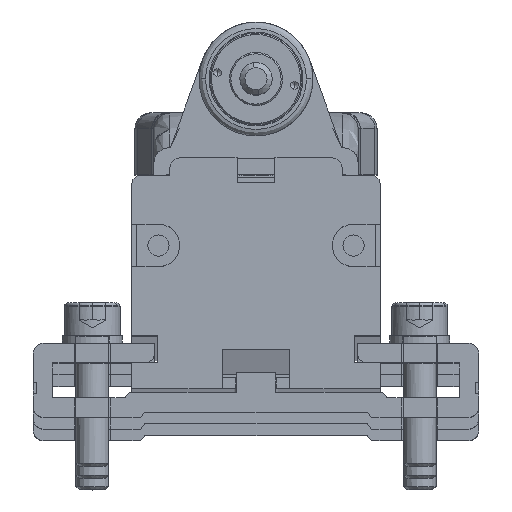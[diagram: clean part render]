
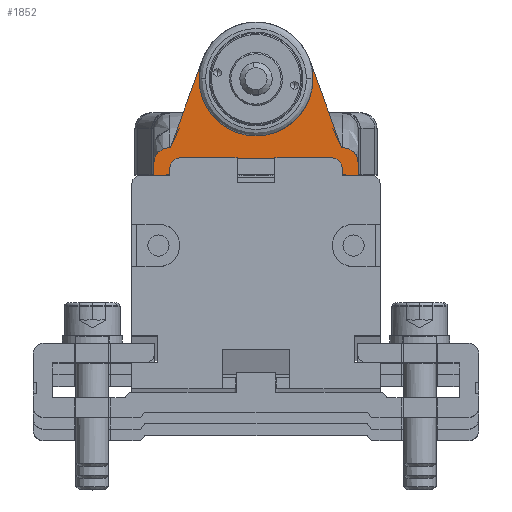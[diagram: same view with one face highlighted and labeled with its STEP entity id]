
A CAD part, top view. The second image highlights one B-rep face of the part: STEP entity #1852.
In plain terms, the highlighted planar face has unit normal (0, 0, 1).
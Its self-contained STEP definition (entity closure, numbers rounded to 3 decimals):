
#1852=ADVANCED_FACE('',(#3964),#3965,.T.);
#3964=FACE_OUTER_BOUND('',#6299,.T.);
#3965=PLANE('',#6300);
#6299=EDGE_LOOP('',(#13789,#13790,#13791,#13792,#13793,#13794,#13795,#13796,#13797,#13798,#13799,#13800,#13801,#13802,#13803,#13804,#13805,#13806,#13807,#13808,#13809,#13810));
#6300=AXIS2_PLACEMENT_3D('',#13811,#13812,#13813);
#13789=ORIENTED_EDGE('',*,*,#18012,.T.);
#13790=ORIENTED_EDGE('',*,*,#18013,.T.);
#13791=ORIENTED_EDGE('',*,*,#18014,.T.);
#13792=ORIENTED_EDGE('',*,*,#18015,.T.);
#13793=ORIENTED_EDGE('',*,*,#18016,.T.);
#13794=ORIENTED_EDGE('',*,*,#18017,.T.);
#13795=ORIENTED_EDGE('',*,*,#18018,.T.);
#13796=ORIENTED_EDGE('',*,*,#18019,.F.);
#13797=ORIENTED_EDGE('',*,*,#18020,.T.);
#13798=ORIENTED_EDGE('',*,*,#18021,.T.);
#13799=ORIENTED_EDGE('',*,*,#18022,.F.);
#13800=ORIENTED_EDGE('',*,*,#18023,.F.);
#13801=ORIENTED_EDGE('',*,*,#15944,.F.);
#13802=ORIENTED_EDGE('',*,*,#18024,.F.);
#13803=ORIENTED_EDGE('',*,*,#15957,.F.);
#13804=ORIENTED_EDGE('',*,*,#18025,.F.);
#13805=ORIENTED_EDGE('',*,*,#18026,.F.);
#13806=ORIENTED_EDGE('',*,*,#18027,.T.);
#13807=ORIENTED_EDGE('',*,*,#18028,.T.);
#13808=ORIENTED_EDGE('',*,*,#18029,.F.);
#13809=ORIENTED_EDGE('',*,*,#18030,.T.);
#13810=ORIENTED_EDGE('',*,*,#18031,.T.);
#13811=CARTESIAN_POINT('',(8.5,32.7,217.0));
#13812=DIRECTION('',(0.0,0.0,1.0));
#13813=DIRECTION('',(1.0,-0.0,0.0));
#15944=EDGE_CURVE('',#18877,#18880,#18881,.T.);
#15957=EDGE_CURVE('',#18904,#18906,#18907,.T.);
#18012=EDGE_CURVE('',#21977,#21978,#21979,.T.);
#18013=EDGE_CURVE('',#21978,#21980,#21981,.T.);
#18014=EDGE_CURVE('',#21980,#21982,#21983,.T.);
#18015=EDGE_CURVE('',#21982,#21984,#21985,.T.);
#18016=EDGE_CURVE('',#21984,#21986,#21987,.T.);
#18017=EDGE_CURVE('',#21986,#21988,#21989,.T.);
#18018=EDGE_CURVE('',#21988,#21990,#21991,.T.);
#18019=EDGE_CURVE('',#21992,#21990,#21993,.T.);
#18020=EDGE_CURVE('',#21992,#21994,#21995,.T.);
#18021=EDGE_CURVE('',#21994,#21996,#21997,.T.);
#18022=EDGE_CURVE('',#21998,#21996,#21999,.T.);
#18023=EDGE_CURVE('',#18880,#21998,#22000,.T.);
#18024=EDGE_CURVE('',#18906,#18877,#22001,.T.);
#18025=EDGE_CURVE('',#22002,#18904,#22003,.T.);
#18026=EDGE_CURVE('',#22004,#22002,#22005,.T.);
#18027=EDGE_CURVE('',#22004,#22006,#22007,.T.);
#18028=EDGE_CURVE('',#22006,#22008,#22009,.T.);
#18029=EDGE_CURVE('',#22010,#22008,#22011,.T.);
#18030=EDGE_CURVE('',#22010,#22012,#22013,.T.);
#18031=EDGE_CURVE('',#22012,#21977,#22014,.T.);
#18877=VERTEX_POINT('',#23146);
#18880=VERTEX_POINT('',#23150);
#18881=CIRCLE('',#23151,8.7);
#18904=VERTEX_POINT('',#23201);
#18906=VERTEX_POINT('',#23203);
#18907=CIRCLE('',#23204,8.7);
#21977=VERTEX_POINT('',#27636);
#21978=VERTEX_POINT('',#27637);
#21979=LINE('',#27638,#27639);
#21980=VERTEX_POINT('',#27640);
#21981=CIRCLE('',#27641,1.5);
#21982=VERTEX_POINT('',#27642);
#21983=LINE('',#27643,#27644);
#21984=VERTEX_POINT('',#27645);
#21985=CIRCLE('',#27646,1.5);
#21986=VERTEX_POINT('',#27647);
#21987=LINE('',#27648,#27649);
#21988=VERTEX_POINT('',#27650);
#21989=LINE('',#27651,#27652);
#21990=VERTEX_POINT('',#27653);
#21991=LINE('',#27654,#27655);
#21992=VERTEX_POINT('',#27656);
#21993=LINE('',#27657,#27658);
#21994=VERTEX_POINT('',#27659);
#21995=LINE('',#27660,#27661);
#21996=VERTEX_POINT('',#27662);
#21997=B_SPLINE_CURVE_WITH_KNOTS('',3,(#27663,#27664,#27665,#27666,#27667,#27668,#27669,#27670,#27671,#27672),.UNSPECIFIED.,.F.,.F.,(4,2,2,2,4),(1.12,1.22,1.315,1.406,1.492),.UNSPECIFIED.);
#21998=VERTEX_POINT('',#27673);
#21999=LINE('',#27674,#27675);
#22000=LINE('',#27676,#27677);
#22001=CIRCLE('',#27678,8.7);
#22002=VERTEX_POINT('',#27679);
#22003=LINE('',#27680,#27681);
#22004=VERTEX_POINT('',#27682);
#22005=LINE('',#27683,#27684);
#22006=VERTEX_POINT('',#27685);
#22007=B_SPLINE_CURVE_WITH_KNOTS('',3,(#27686,#27687,#27688,#27689,#27690,#27691,#27692,#27693,#27694,#27695),.UNSPECIFIED.,.F.,.F.,(4,2,2,2,4),(0.0,0.086,0.177,0.272,0.372),.UNSPECIFIED.);
#22008=VERTEX_POINT('',#27696);
#22009=LINE('',#27697,#27698);
#22010=VERTEX_POINT('',#27699);
#22011=LINE('',#27700,#27701);
#22012=VERTEX_POINT('',#27702);
#22013=LINE('',#27703,#27704);
#22014=LINE('',#27705,#27706);
#23146=CARTESIAN_POINT('',(27.7,47.3,217.0));
#23150=CARTESIAN_POINT('',(27.177,50.272,217.0));
#23151=AXIS2_PLACEMENT_3D('',#29639,#29640,#29641);
#23201=CARTESIAN_POINT('',(10.823,50.272,217.0));
#23203=CARTESIAN_POINT('',(10.3,47.3,217.0));
#23204=AXIS2_PLACEMENT_3D('',#29660,#29661,#29662);
#27636=CARTESIAN_POINT('',(5.85,32.7,217.0));
#27637=CARTESIAN_POINT('',(5.85,33.7,217.0));
#27638=CARTESIAN_POINT('',(5.85,32.7,217.0));
#27639=VECTOR('',#32258,1.0);
#27640=CARTESIAN_POINT('',(7.35,35.2,217.0));
#27641=AXIS2_PLACEMENT_3D('',#32259,#32260,#32261);
#27642=CARTESIAN_POINT('',(30.65,35.2,217.0));
#27643=CARTESIAN_POINT('',(7.35,35.2,217.0));
#27644=VECTOR('',#32262,23.3);
#27645=CARTESIAN_POINT('',(32.15,33.7,217.0));
#27646=AXIS2_PLACEMENT_3D('',#32263,#32264,#32265);
#27647=CARTESIAN_POINT('',(32.15,32.7,217.0));
#27648=CARTESIAN_POINT('',(32.15,33.7,217.0));
#27649=VECTOR('',#32266,1.0);
#27650=CARTESIAN_POINT('',(32.65,32.7,217.0));
#27651=CARTESIAN_POINT('',(32.15,32.7,217.0));
#27652=VECTOR('',#32267,0.5);
#27653=CARTESIAN_POINT('',(32.65,31.7,217.0));
#27654=CARTESIAN_POINT('',(32.65,32.7,217.0));
#27655=VECTOR('',#32268,1.0);
#27656=CARTESIAN_POINT('',(34.65,31.7,217.0));
#27657=CARTESIAN_POINT('',(34.65,31.7,217.0));
#27658=VECTOR('',#32269,2.0);
#27659=CARTESIAN_POINT('',(34.65,34.236,217.0));
#27660=CARTESIAN_POINT('',(34.65,31.7,217.0));
#27661=VECTOR('',#32270,2.536);
#27662=CARTESIAN_POINT('',(32.25,36.86,217.0));
#27663=CARTESIAN_POINT('',(34.65,34.236,217.0));
#27664=CARTESIAN_POINT('',(34.65,34.57,217.0));
#27665=CARTESIAN_POINT('',(34.577,34.965,217.0));
#27666=CARTESIAN_POINT('',(34.338,35.572,217.0));
#27667=CARTESIAN_POINT('',(34.136,35.895,217.0));
#27668=CARTESIAN_POINT('',(33.71,36.344,217.0));
#27669=CARTESIAN_POINT('',(33.416,36.554,217.0));
#27670=CARTESIAN_POINT('',(32.876,36.789,217.0));
#27671=CARTESIAN_POINT('',(32.538,36.86,217.0));
#27672=CARTESIAN_POINT('',(32.25,36.86,217.0));
#27673=CARTESIAN_POINT('',(32.052,36.86,217.0));
#27674=CARTESIAN_POINT('',(32.052,36.86,217.0));
#27675=VECTOR('',#32271,0.198);
#27676=CARTESIAN_POINT('',(27.177,50.272,217.0));
#27677=VECTOR('',#32272,14.271);
#27678=AXIS2_PLACEMENT_3D('',#32273,#32274,#32275);
#27679=CARTESIAN_POINT('',(5.948,36.86,217.0));
#27680=CARTESIAN_POINT('',(5.948,36.86,217.0));
#27681=VECTOR('',#32276,14.27);
#27682=CARTESIAN_POINT('',(5.75,36.86,217.0));
#27683=CARTESIAN_POINT('',(5.75,36.86,217.0));
#27684=VECTOR('',#32277,0.198);
#27685=CARTESIAN_POINT('',(3.35,34.236,217.0));
#27686=CARTESIAN_POINT('',(5.75,36.86,217.0));
#27687=CARTESIAN_POINT('',(5.462,36.86,217.0));
#27688=CARTESIAN_POINT('',(5.124,36.789,217.0));
#27689=CARTESIAN_POINT('',(4.584,36.554,217.0));
#27690=CARTESIAN_POINT('',(4.29,36.344,217.0));
#27691=CARTESIAN_POINT('',(3.864,35.895,217.0));
#27692=CARTESIAN_POINT('',(3.662,35.572,217.0));
#27693=CARTESIAN_POINT('',(3.423,34.965,217.0));
#27694=CARTESIAN_POINT('',(3.35,34.57,217.0));
#27695=CARTESIAN_POINT('',(3.35,34.236,217.0));
#27696=CARTESIAN_POINT('',(3.35,31.7,217.0));
#27697=CARTESIAN_POINT('',(3.35,34.236,217.0));
#27698=VECTOR('',#32278,2.536);
#27699=CARTESIAN_POINT('',(5.35,31.7,217.0));
#27700=CARTESIAN_POINT('',(5.35,31.7,217.0));
#27701=VECTOR('',#32279,2.0);
#27702=CARTESIAN_POINT('',(5.35,32.7,217.0));
#27703=CARTESIAN_POINT('',(5.35,31.7,217.0));
#27704=VECTOR('',#32280,1.0);
#27705=CARTESIAN_POINT('',(5.35,32.7,217.0));
#27706=VECTOR('',#32281,0.5);
#29639=CARTESIAN_POINT('',(19.,47.3,217.0));
#29640=DIRECTION('',(0.,0.,1.0));
#29641=DIRECTION('',(0.94,0.342,0.));
#29660=CARTESIAN_POINT('',(19.,47.3,217.0));
#29661=DIRECTION('',(0.,0.,1.0));
#29662=DIRECTION('',(0.94,0.342,0.));
#32258=DIRECTION('',(0.0,1.0,0.0));
#32259=CARTESIAN_POINT('',(7.35,33.7,217.0));
#32260=DIRECTION('',(0.0,0.0,-1.0));
#32261=DIRECTION('',(-1.0,0.0,0.0));
#32262=DIRECTION('',(1.0,0.0,0.0));
#32263=CARTESIAN_POINT('',(30.65,33.7,217.0));
#32264=DIRECTION('',(0.0,0.0,-1.0));
#32265=DIRECTION('',(1.0,0.0,0.0));
#32266=DIRECTION('',(0.0,-1.0,0.0));
#32267=DIRECTION('',(1.0,0.0,0.0));
#32268=DIRECTION('',(0.0,-1.0,0.0));
#32269=DIRECTION('',(-1.0,0.0,0.0));
#32270=DIRECTION('',(0.0,1.0,0.0));
#32271=DIRECTION('',(1.0,0.0,0.0));
#32272=DIRECTION('',(0.342,-0.94,0.));
#32273=CARTESIAN_POINT('',(19.,47.3,217.0));
#32274=DIRECTION('',(0.,0.,1.0));
#32275=DIRECTION('',(0.94,0.342,0.));
#32276=DIRECTION('',(0.342,0.94,0.0));
#32277=DIRECTION('',(1.0,0.0,0.0));
#32278=DIRECTION('',(0.0,-1.0,0.0));
#32279=DIRECTION('',(-1.0,0.0,0.0));
#32280=DIRECTION('',(0.0,1.0,0.0));
#32281=DIRECTION('',(1.0,0.0,0.0));
